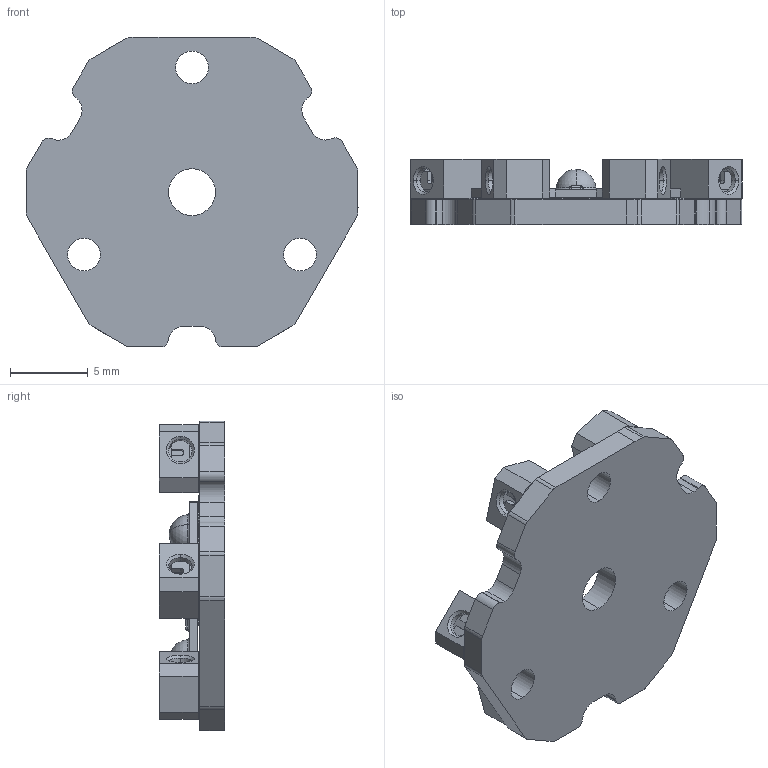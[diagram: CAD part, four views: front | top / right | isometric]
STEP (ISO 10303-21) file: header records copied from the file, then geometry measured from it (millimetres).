
FILE_DESCRIPTION (( 'STEP AP214' ), '1' );
FILE_NAME ('SW-03.STEP', '2023-11-14T02:25:15', ( '' ), ( '' ), 'SwSTEP 2.0', 'SolidWorks 2021', '' );
FILE_SCHEMA (( 'AUTOMOTIVE_DESIGN' ));
Length unit declared in the file: millimetre
Products named in the file (1): SW-03
Bounding box: 21.29 x 4.18 x 19.87 mm (x, y, z)
Volume: 651.1 mm3; surface area: 1560.5 mm2
Topology: 16 solids, 16 shells, 1599 faces, 4250 edges, 2777 vertices
Faces by surface type: plane 1074, cylinder 295, bspline 170, cone 24, torus 18, sphere 18
Entity records: 64602 total; most frequent: CARTESIAN_POINT 16285, ORIENTED_EDGE 8458, DIRECTION 7396, EDGE_CURVE 4229, VECTOR 3242, LINE 3242, VERTEX_POINT 2774, AXIS2_PLACEMENT_3D 2077
